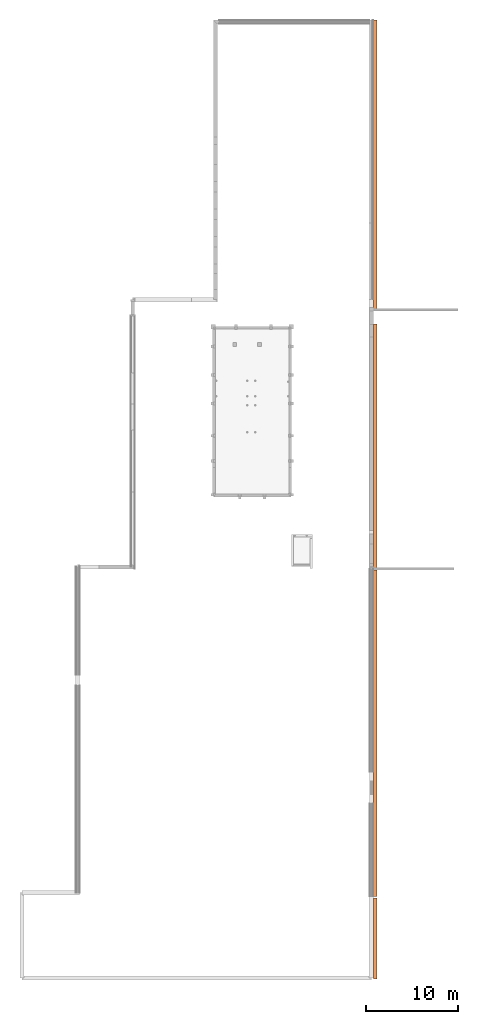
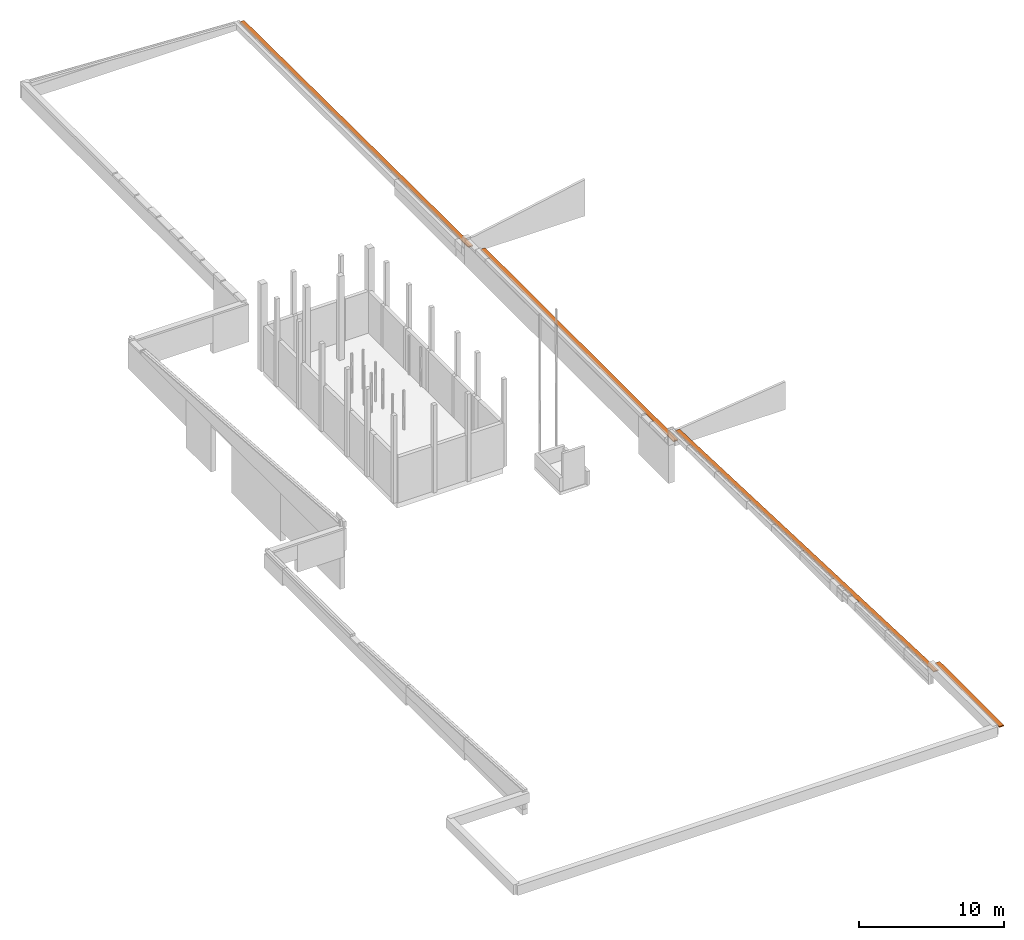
# One storey, part 17 of 17: 4 proxies.
"""IFC2X3 building model written with IfcOpenShell, lengths in millimetres."""

from ifc_helpers import new_model, entity, si_unit, converted_unit, derived_unit, money_unit, direction, frame, origin_with_axes, place, context, subcontext, project, spatial, polyline, outline, extrude, material, type_object, element, save


model = new_model("IFC2X3")

# Units and contexts
model_context = context("Model", 3, precision=0.01, world=origin_with_axes(), true_north=direction((0.0, 1.0)))
body_context = subcontext(model_context, "Body", "Model", "MODEL_VIEW")
ifc_project = project(units=[si_unit("LENGTHUNIT", "METRE", prefix="MILLI"), si_unit("AREAUNIT", "SQUARE_METRE"), si_unit("VOLUMEUNIT", "CUBIC_METRE"), converted_unit("PLANEANGLEUNIT", "DEGREE", entity("IfcPlaneAngleMeasure", 0.0174532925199), si_unit("PLANEANGLEUNIT", "RADIAN"), dimensions=[0, 0, 0, 0, 0, 0, 0]), si_unit("SOLIDANGLEUNIT", "STERADIAN"), money_unit("EUR"), converted_unit("TIMEUNIT", "Year", entity("IfcTimeMeasure", 31556926.0), si_unit("TIMEUNIT", "SECOND"), dimensions=[0, 0, 1, 0, 0, 0, 0]), si_unit("MASSUNIT", "GRAM", prefix="KILO"), si_unit("THERMODYNAMICTEMPERATUREUNIT", "DEGREE_CELSIUS"), si_unit("LUMINOUSINTENSITYUNIT", "LUMEN"), si_unit("ENERGYUNIT", "JOULE", prefix="MEGA"), derived_unit("THERMALCONDUCTANCEUNIT", [(si_unit("POWERUNIT", "WATT"), 1), (si_unit("LENGTHUNIT", "METRE"), -1), (si_unit("THERMODYNAMICTEMPERATUREUNIT", "KELVIN"), -1)]), derived_unit("SPECIFICHEATCAPACITYUNIT", [(si_unit("ENERGYUNIT", "JOULE"), 1), (si_unit("MASSUNIT", "GRAM", prefix="KILO"), -1), (si_unit("THERMODYNAMICTEMPERATUREUNIT", "KELVIN"), -1)]), derived_unit("MASSDENSITYUNIT", [(si_unit("MASSUNIT", "GRAM", prefix="KILO"), 1), (si_unit("VOLUMEUNIT", "CUBIC_METRE"), -1)])], contexts=[model_context])

# Site, building, storey
site_placement = place(None, origin_with_axes())
site = spatial("IfcSite", under=ifc_project, at=site_placement, Name="Puškini 31, Narva", CompositionType="ELEMENT")
building_placement = place(site_placement, origin_with_axes())
building = spatial("IfcBuilding", under=site, at=building_placement, Name="Narva Riigigümnaasium", CompositionType="ELEMENT")
storey_placement = place(building_placement, frame((0.0, 0.0, -6800.0), z_axis=(0.0, 0.0, 1.0), x_axis=(1.0, 0.0, 0.0)))
storey = spatial("IfcBuildingStorey", under=building, at=storey_placement, Name="0.korrus -6.8", CompositionType="ELEMENT", Elevation=-6800.0)

# Proxies
ifc_material = material(Name="Raudbetoon - Konstruktsioon")
building_element_proxy_type = type_object("IfcBuildingElementProxyType", Name="Raudbetoon - Konstruktsioon 80", PredefinedType="NOTDEFINED")
proxy_1_placement = place(storey_placement, frame((54779.9999877, 254448.805854, 2419.99850849), z_axis=(0.0, 0.0, 1.0), x_axis=(-1.0, 0.0, 0.0)))
element("IfcBuildingElementProxy", 1, at=proxy_1_placement, inside=storey, type_object=building_element_proxy_type, material=ifc_material, Name="Sokliplaat", context=body_context, shape_type="SweptSolid", body=[
    extrude(outline(polyline([(369.999985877, 9.29453025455), (369.999985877, 31469.6443131), (0.0, 31469.6443131), (0.0, 9.29453025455), (369.999985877, 9.29453025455)])), frame((0.0, 0.0, 0.0), z_axis=(0.0, -0.00610628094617, 0.999981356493), x_axis=(1.0, 0.0, 0.0)), (0.0, 0.0, 1.0), 80.0),
])
proxy_2_placement = place(storey_placement, frame((54620.0000017, 221319.565137, 3420.0), z_axis=(0.0, 0.0, 1.0), x_axis=(1.0, 0.0, 0.0)))
element("IfcBuildingElementProxy", 2, at=proxy_2_placement, inside=storey, type_object=building_element_proxy_type, material=ifc_material, Name="Sokliplaat", context=body_context, shape_type="SweptSolid", body=[
    extrude(outline(polyline([(-210.0000007, 0.0), (-210.0000007, -26554.5651379), (160.0, -26554.5651379), (160.0, 0.0), (-210.0000007, 0.0)])), origin_with_axes(), (0.0, 0.0, 1.0), 80.0),
])
proxy_3_placement = place(storey_placement, frame((54779.9999877, 194809.105273, 4417.54508258), z_axis=(0.0, 0.0, 1.0), x_axis=(-1.0, 0.0, 0.0)))
element("IfcBuildingElementProxy", 3, at=proxy_3_placement, inside=storey, type_object=building_element_proxy_type, material=ifc_material, Name="Sokliplaat", context=body_context, shape_type="SweptSolid", body=[
    extrude(outline(polyline([(-9.65414415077e-08, 244.283565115), (369.991699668, 244.283565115), (369.991699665, 35836.4271483), (-1.41620546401e-05, 35836.4271483), (-9.65414415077e-08, 244.283565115)])), frame((0.0, 0.0, 0.0), z_axis=(0.0, -0.038199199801, 0.999270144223), x_axis=(1.0, 0.0, 0.0)), (0.0, 0.038199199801, 0.999270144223), 80.0584311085),
])
proxy_4_placement = place(storey_placement, frame((54460.000001, 159000.0, 6620.0), z_axis=(0.0, 0.0, 1.0), x_axis=(1.0, 0.0, 0.0)))
element("IfcBuildingElementProxy", 4, at=proxy_4_placement, inside=storey, type_object=building_element_proxy_type, material=ifc_material, Name="Sokliplaat", context=body_context, shape_type="SweptSolid", body=[
    extrude(outline(polyline([(-50.0, -201.166452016), (-50.0, -9023.4956187), (320.0000007, -9023.4956187), (320.0000007, -201.166452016), (-50.0, -201.166452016)])), origin_with_axes(), (0.0, 0.0, 1.0), 80.0),
])

save(model, "model.ifc")
